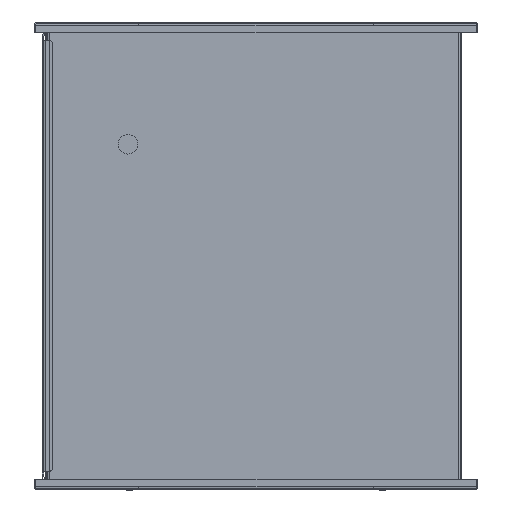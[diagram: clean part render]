
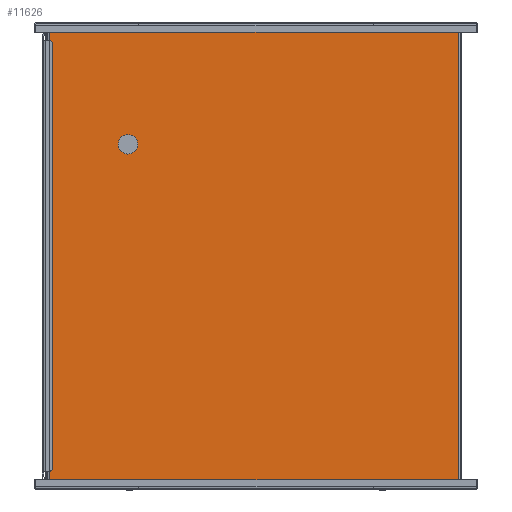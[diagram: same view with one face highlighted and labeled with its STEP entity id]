
A CAD part, left-side view. The second image highlights one B-rep face of the part: STEP entity #11626.
In plain terms, the highlighted planar face has unit normal (-1, 0, 0).
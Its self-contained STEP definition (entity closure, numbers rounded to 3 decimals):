
#235 = EDGE_LOOP ( 'NONE', ( #11292, #11285 ) ) ;
#555 = CARTESIAN_POINT ( 'NONE',  ( -300., -154.7, 407.8 ) ) ;
#1701 = CIRCLE ( 'NONE', #10427, 7.5 ) ;
#1724 = LINE ( 'NONE', #4608, #1728 ) ;
#1728 = VECTOR ( 'NONE', #4611, 1000. ) ;
#4149 = DIRECTION ( 'NONE',  ( 0., 1., 0. ) ) ;
#4154 = CARTESIAN_POINT ( 'NONE',  ( -300., -154.7, 407.8 ) ) ;
#4206 = CARTESIAN_POINT ( 'NONE',  ( -300., -154.7, 232.6 ) ) ;
#4207 = DIRECTION ( 'NONE',  ( 0., 0., 1. ) ) ;
#4544 = CARTESIAN_POINT ( 'NONE',  ( -300., 97.7, 317.8 ) ) ;
#4546 = DIRECTION ( 'NONE',  ( -1., 0., 0. ) ) ;
#4548 = DIRECTION ( 'NONE',  ( 0., -1., 0. ) ) ;
#4608 = CARTESIAN_POINT ( 'NONE',  ( -300., 157.7, 57.4 ) ) ;
#4611 = DIRECTION ( 'NONE',  ( 0., -1., 0. ) ) ;
#7238 = CARTESIAN_POINT ( 'NONE',  ( -300., -156., 232.6 ) ) ;
#7241 = PLANE ( 'NONE',  #7685 ) ;
#7243 = DIRECTION ( 'NONE',  ( -1., 0., 0. ) ) ;
#7244 = DIRECTION ( 'NONE',  ( 0., -1., 0. ) ) ;
#7685 = AXIS2_PLACEMENT_3D ( 'NONE', #7238, #7243, #7244 ) ;
#7826 = AXIS2_PLACEMENT_3D ( 'NONE', #11012, #11013, #11014 ) ;
#8144 = VERTEX_POINT ( 'NONE', #555 ) ;
#8322 = VERTEX_POINT ( 'NONE', #14023 ) ;
#8339 = VERTEX_POINT ( 'NONE', #14040 ) ;
#8406 = VERTEX_POINT ( 'NONE', #14107 ) ;
#8961 = FACE_BOUND ( 'NONE', #235, .T. ) ;
#8969 = FACE_OUTER_BOUND ( 'NONE', #16485, .T. ) ;
#10427 = AXIS2_PLACEMENT_3D ( 'NONE', #4544, #4546, #4548 ) ;
#10709 = CARTESIAN_POINT ( 'NONE',  ( -300., 90.2, 317.8 ) ) ;
#10812 = CARTESIAN_POINT ( 'NONE',  ( -300., 157.7, 407.8 ) ) ;
#11012 = CARTESIAN_POINT ( 'NONE',  ( -300., 97.7, 317.8 ) ) ;
#11013 = DIRECTION ( 'NONE',  ( -1., 0., 0. ) ) ;
#11014 = DIRECTION ( 'NONE',  ( 0., -1., 0. ) ) ;
#11200 = ORIENTED_EDGE ( 'NONE', *, *, #17803, .T. ) ;
#11203 = ORIENTED_EDGE ( 'NONE', *, *, #18538, .T. ) ;
#11285 = ORIENTED_EDGE ( 'NONE', *, *, #17680, .F. ) ;
#11292 = ORIENTED_EDGE ( 'NONE', *, *, #18640, .F. ) ;
#11310 = ORIENTED_EDGE ( 'NONE', *, *, #18661, .T. ) ;
#11626 = ADVANCED_FACE ( 'NONE', ( #8961, #8969 ), #7241, .T. ) ;
#12562 = VERTEX_POINT ( 'NONE', #10709 ) ;
#12666 = VERTEX_POINT ( 'NONE', #10812 ) ;
#13532 = LINE ( 'NONE', #4154, #13539 ) ;
#13539 = VECTOR ( 'NONE', #4149, 1000. ) ;
#13549 = LINE ( 'NONE', #4206, #13553 ) ;
#13553 = VECTOR ( 'NONE', #4207, 1000. ) ;
#14023 = CARTESIAN_POINT ( 'NONE',  ( -300., -154.7, 57.4 ) ) ;
#14040 = CARTESIAN_POINT ( 'NONE',  ( -300., 157.7, 57.4 ) ) ;
#14107 = CARTESIAN_POINT ( 'NONE',  ( -300., 105.2, 317.8 ) ) ;
#14376 = ORIENTED_EDGE ( 'NONE', *, *, #18528, .T. ) ;
#14866 = CIRCLE ( 'NONE', #7826, 7.5 ) ;
#14984 = LINE ( 'NONE', #17410, #14987 ) ;
#14987 = VECTOR ( 'NONE', #17400, 1000. ) ;
#16485 = EDGE_LOOP ( 'NONE', ( #11200, #11310, #11203, #14376 ) ) ;
#17400 = DIRECTION ( 'NONE',  ( 0., 0., -1. ) ) ;
#17410 = CARTESIAN_POINT ( 'NONE',  ( -300., 157.7, 410.1 ) ) ;
#17680 = EDGE_CURVE ( 'NONE', #8406, #12562, #14866, .T. ) ;
#17803 = EDGE_CURVE ( 'NONE', #12666, #8339, #14984, .T. ) ;
#18528 = EDGE_CURVE ( 'NONE', #8144, #12666, #13532, .T. ) ;
#18538 = EDGE_CURVE ( 'NONE', #8322, #8144, #13549, .T. ) ;
#18640 = EDGE_CURVE ( 'NONE', #12562, #8406, #1701, .T. ) ;
#18661 = EDGE_CURVE ( 'NONE', #8339, #8322, #1724, .T. ) ;
